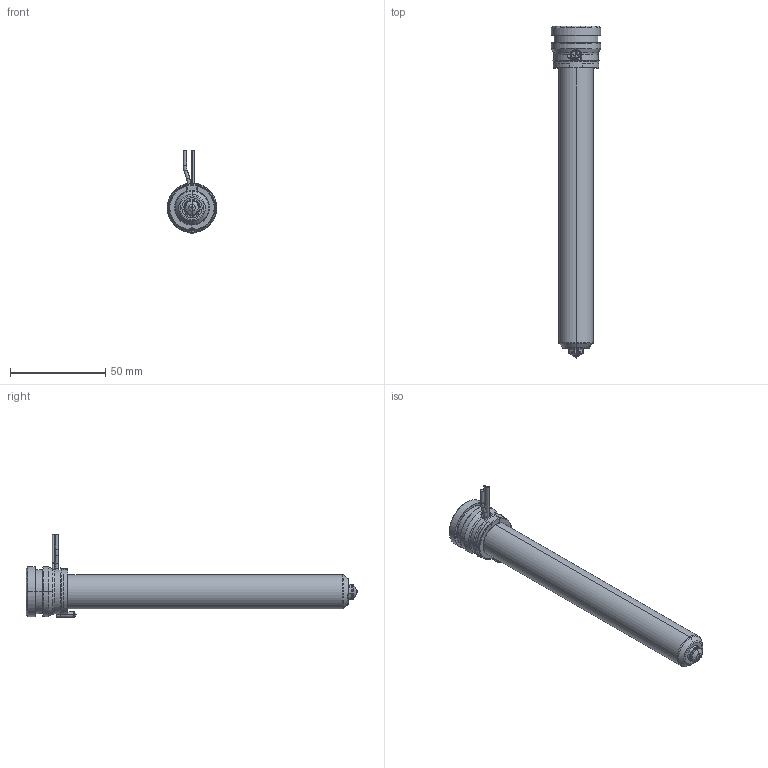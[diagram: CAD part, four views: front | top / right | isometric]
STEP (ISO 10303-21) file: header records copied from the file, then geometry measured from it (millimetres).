
FILE_DESCRIPTION((''),'2;1');
FILE_NAME('MPN-08-24-VSA8-156-A','2026-02-05T12:04:03',('UPTIO'),('Thermoplay S.p.A.'),'CREO PARAMETRIC BY PTC INC, 2023494','CREO PARAMETRIC BY PTC INC, 2023494','');
FILE_SCHEMA(('CONFIG_CONTROL_DESIGN','SHAPE_APPEARANCE_LAYERS_GROUPS'));
Length unit declared in the file: millimetre
Products named in the file (1): MPN-08-24-VSA8-156-A
Bounding box: 26 x 174 x 43.5 mm (x, y, z)
Volume: 32892.6 mm3; surface area: 42826.8 mm2
Topology: 2 solids, 3 shells, 543 faces, 1440 edges, 895 vertices
Faces by surface type: cylinder 182, plane 143, bspline 80, torus 62, cone 60, sphere 10, extrusion 6
Entity records: 29198 total; most frequent: CARTESIAN_POINT 13000, ORIENTED_EDGE 2864, DIRECTION 2580, EDGE_CURVE 1432, AXIS2_PLACEMENT_3D 1007, VERTEX_POINT 895, EDGE_LOOP 571, VECTOR 566
